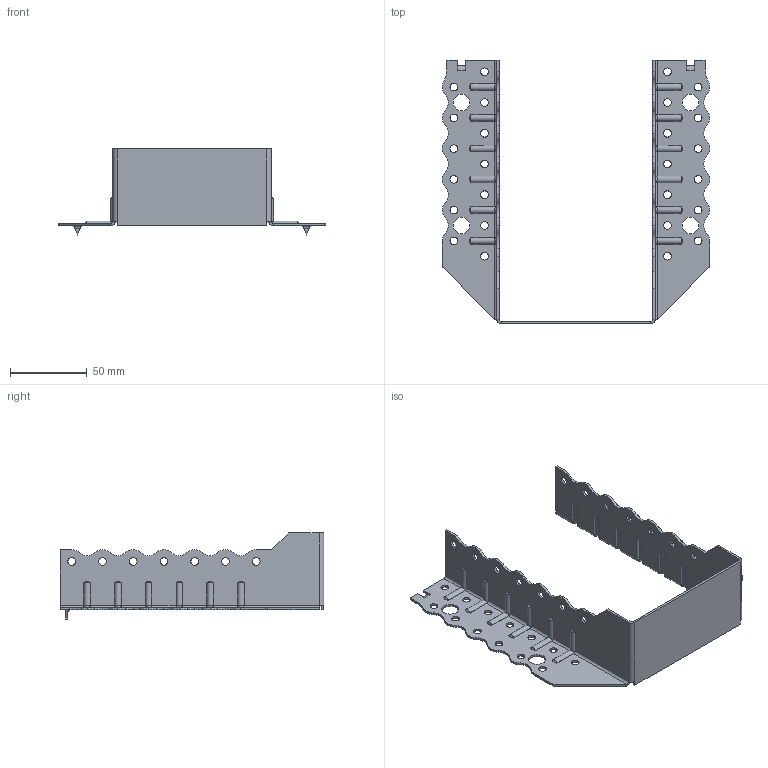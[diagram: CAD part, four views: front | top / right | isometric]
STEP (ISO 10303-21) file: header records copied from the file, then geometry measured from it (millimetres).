
FILE_DESCRIPTION (( 'STEP AP203' ), '1' );
FILE_NAME ('30628TOPK.STEP', '2021-04-08T15:04:08', ( '' ), ( '' ), 'SwSTEP 2.0', 'SolidWorks 2013', '' );
FILE_SCHEMA (( 'CONFIG_CONTROL_DESIGN' ));
Length unit declared in the file: millimetre
Products named in the file (1): 30628TOPK
Bounding box: 174 x 171.5 x 56 mm (x, y, z)
Volume: 41071.3 mm3; surface area: 58608.2 mm2
Topology: 1 solids, 1 shells, 496 faces, 1342 edges, 848 vertices
Faces by surface type: cylinder 315, plane 133, torus 24, bspline 24
Entity records: 18521 total; most frequent: CARTESIAN_POINT 5917, ORIENTED_EDGE 2684, DIRECTION 2582, EDGE_CURVE 1342, AXIS2_PLACEMENT_3D 943, VERTEX_POINT 848, VECTOR 696, LINE 696
